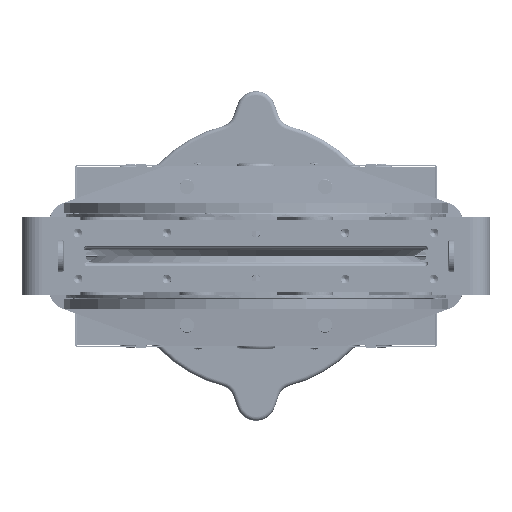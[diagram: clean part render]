
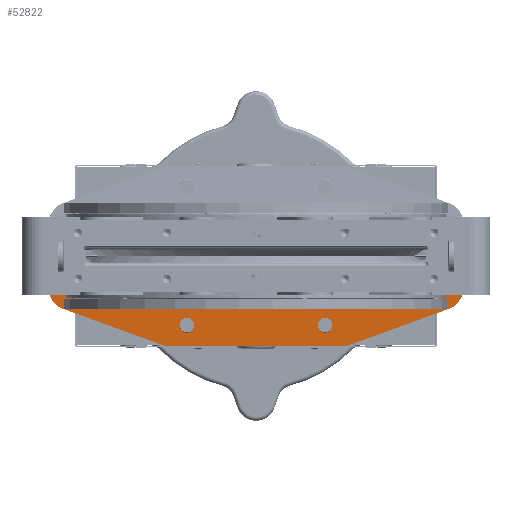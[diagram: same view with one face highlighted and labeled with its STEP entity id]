
A CAD part, front view. The second image highlights one B-rep face of the part: STEP entity #52822.
In plain terms, the highlighted planar face has unit normal (0, -0.998, -0.07).
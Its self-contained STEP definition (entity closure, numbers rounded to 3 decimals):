
#613=B_SPLINE_CURVE_WITH_KNOTS('',3,(#89070,#89071,#89072,#89073),
 .UNSPECIFIED.,.F.,.F.,(4,4),(0.,0.),.UNSPECIFIED.);
#614=B_SPLINE_CURVE_WITH_KNOTS('',3,(#89081,#89082,#89083,#89084),
 .UNSPECIFIED.,.F.,.F.,(4,4),(0.,0.),.UNSPECIFIED.);
#1090=ELLIPSE('',#57533,7.052,7.017);
#1091=ELLIPSE('',#57547,7.017,7.);
#1092=ELLIPSE('',#57549,7.052,7.017);
#1093=ELLIPSE('',#57563,7.017,7.);
#1094=ELLIPSE('',#57625,20.049,20.);
#1095=ELLIPSE('',#57629,20.049,20.);
#1096=ELLIPSE('',#57630,39.095,39.);
#1097=ELLIPSE('',#57631,39.095,39.);
#2473=FACE_BOUND('',#8564,.T.);
#2474=FACE_BOUND('',#8565,.T.);
#3352=PLANE('',#57628);
#5284=FACE_OUTER_BOUND('',#8563,.T.);
#8563=EDGE_LOOP('',(#39991,#39992,#39993,#39994,#39995,#39996,#39997,#39998,
#39999,#40000,#40001,#40002,#40003,#40004));
#8564=EDGE_LOOP('',(#40005,#40006));
#8565=EDGE_LOOP('',(#40007,#40008));
#11471=LINE('',#87438,#14343);
#11948=LINE('',#89043,#14820);
#11957=LINE('',#89060,#14829);
#11958=LINE('',#89062,#14830);
#11959=LINE('',#89066,#14831);
#11960=LINE('',#89068,#14832);
#11961=LINE('',#89077,#14833);
#11962=LINE('',#89085,#14834);
#14343=VECTOR('',#67203,1.);
#14820=VECTOR('',#69042,1.);
#14829=VECTOR('',#69053,1.);
#14830=VECTOR('',#69054,1.);
#14831=VECTOR('',#69057,1.);
#14832=VECTOR('',#69058,1.);
#14833=VECTOR('',#69061,1.);
#14834=VECTOR('',#69064,1.);
#21858=VERTEX_POINT('',#87435);
#21859=VERTEX_POINT('',#87437);
#22241=VERTEX_POINT('',#88828);
#22242=VERTEX_POINT('',#88829);
#22247=VERTEX_POINT('',#88854);
#22248=VERTEX_POINT('',#88855);
#22302=VERTEX_POINT('',#89033);
#22303=VERTEX_POINT('',#89034);
#22306=VERTEX_POINT('',#89042);
#22314=VERTEX_POINT('',#89061);
#22315=VERTEX_POINT('',#89063);
#22316=VERTEX_POINT('',#89065);
#22317=VERTEX_POINT('',#89067);
#22318=VERTEX_POINT('',#89069);
#22319=VERTEX_POINT('',#89074);
#22320=VERTEX_POINT('',#89076);
#22321=VERTEX_POINT('',#89078);
#22322=VERTEX_POINT('',#89080);
#27763=EDGE_CURVE('',#21858,#21859,#11471,.T.);
#28467=EDGE_CURVE('',#22241,#22242,#1090,.T.);
#28478=EDGE_CURVE('',#22242,#22241,#1091,.F.);
#28479=EDGE_CURVE('',#22247,#22248,#1092,.T.);
#28490=EDGE_CURVE('',#22248,#22247,#1093,.F.);
#28565=EDGE_CURVE('',#22302,#22303,#1094,.T.);
#28569=EDGE_CURVE('',#22303,#22306,#11948,.T.);
#28578=EDGE_CURVE('',#22302,#21859,#11957,.F.);
#28579=EDGE_CURVE('',#21858,#22314,#11958,.F.);
#28580=EDGE_CURVE('',#22315,#22314,#1095,.T.);
#28581=EDGE_CURVE('',#22315,#22316,#11959,.T.);
#28582=EDGE_CURVE('',#22316,#22317,#11960,.T.);
#28583=EDGE_CURVE('',#22317,#22318,#613,.T.);
#28584=EDGE_CURVE('',#22318,#22319,#1096,.F.);
#28585=EDGE_CURVE('',#22319,#22320,#11961,.T.);
#28586=EDGE_CURVE('',#22320,#22321,#1097,.F.);
#28587=EDGE_CURVE('',#22321,#22322,#614,.T.);
#28588=EDGE_CURVE('',#22322,#22306,#11962,.T.);
#39991=ORIENTED_EDGE('',*,*,#28565,.F.);
#39992=ORIENTED_EDGE('',*,*,#28578,.T.);
#39993=ORIENTED_EDGE('',*,*,#27763,.F.);
#39994=ORIENTED_EDGE('',*,*,#28579,.T.);
#39995=ORIENTED_EDGE('',*,*,#28580,.F.);
#39996=ORIENTED_EDGE('',*,*,#28581,.T.);
#39997=ORIENTED_EDGE('',*,*,#28582,.T.);
#39998=ORIENTED_EDGE('',*,*,#28583,.T.);
#39999=ORIENTED_EDGE('',*,*,#28584,.T.);
#40000=ORIENTED_EDGE('',*,*,#28585,.T.);
#40001=ORIENTED_EDGE('',*,*,#28586,.T.);
#40002=ORIENTED_EDGE('',*,*,#28587,.T.);
#40003=ORIENTED_EDGE('',*,*,#28588,.T.);
#40004=ORIENTED_EDGE('',*,*,#28569,.F.);
#40005=ORIENTED_EDGE('',*,*,#28467,.T.);
#40006=ORIENTED_EDGE('',*,*,#28478,.T.);
#40007=ORIENTED_EDGE('',*,*,#28479,.T.);
#40008=ORIENTED_EDGE('',*,*,#28490,.T.);
#52822=ADVANCED_FACE('',(#5284,#2473,#2474),#3352,.T.);
#57533=AXIS2_PLACEMENT_3D('',#88830,#68798,#68799);
#57547=AXIS2_PLACEMENT_3D('',#88852,#68830,#68831);
#57549=AXIS2_PLACEMENT_3D('',#88856,#68834,#68835);
#57563=AXIS2_PLACEMENT_3D('',#88878,#68866,#68867);
#57625=AXIS2_PLACEMENT_3D('',#89035,#69034,#69035);
#57628=AXIS2_PLACEMENT_3D('',#89059,#69051,#69052);
#57629=AXIS2_PLACEMENT_3D('',#89064,#69055,#69056);
#57630=AXIS2_PLACEMENT_3D('',#89075,#69059,#69060);
#57631=AXIS2_PLACEMENT_3D('',#89079,#69062,#69063);
#67203=DIRECTION('',(-1.,0.,0.));
#68798=DIRECTION('center_axis',(0.,0.998,0.07));
#68799=DIRECTION('ref_axis',(0.,0.07,-0.998));
#68830=DIRECTION('center_axis',(0.,-0.998,-0.07));
#68831=DIRECTION('ref_axis',(0.,0.07,-0.998));
#68834=DIRECTION('center_axis',(0.,0.998,0.07));
#68835=DIRECTION('ref_axis',(0.,0.07,-0.998));
#68866=DIRECTION('center_axis',(0.,-0.998,-0.07));
#68867=DIRECTION('ref_axis',(0.,0.07,-0.998));
#69034=DIRECTION('center_axis',(0.,0.998,0.07));
#69035=DIRECTION('ref_axis',(0.,0.07,-0.998));
#69042=DIRECTION('',(0.,-0.07,0.998));
#69051=DIRECTION('center_axis',(0.,-0.998,-0.07));
#69052=DIRECTION('ref_axis',(0.,0.07,-0.998));
#69053=DIRECTION('',(-0.939,-0.024,0.342));
#69054=DIRECTION('',(-0.939,0.024,-0.342));
#69055=DIRECTION('center_axis',(0.,0.998,0.07));
#69056=DIRECTION('ref_axis',(0.,0.07,-0.998));
#69057=DIRECTION('',(0.,-0.07,0.998));
#69058=DIRECTION('',(-1.,0.,0.));
#69059=DIRECTION('center_axis',(0.,-0.998,-0.07));
#69060=DIRECTION('ref_axis',(0.,-0.07,0.998));
#69061=DIRECTION('',(-1.,0.,0.));
#69062=DIRECTION('center_axis',(0.,-0.998,-0.07));
#69063=DIRECTION('ref_axis',(0.,-0.07,0.998));
#69064=DIRECTION('',(-1.,0.,0.));
#87435=CARTESIAN_POINT('',(90.,258.5,-87.5));
#87437=CARTESIAN_POINT('',(-90.,258.5,-87.5));
#87438=CARTESIAN_POINT('',(404798.025,258.5,-87.5));
#88828=CARTESIAN_POINT('',(-60.5,257.101,-67.5));
#88829=CARTESIAN_POINT('',(-74.5,257.101,-67.5));
#88830=CARTESIAN_POINT('Origin',(-67.5,257.136,-67.992));
#88852=CARTESIAN_POINT('Origin',(-67.5,257.101,-67.5));
#88854=CARTESIAN_POINT('',(74.5,257.101,-67.5));
#88855=CARTESIAN_POINT('',(60.5,257.101,-67.5));
#88856=CARTESIAN_POINT('Origin',(67.5,257.136,-67.992));
#88878=CARTESIAN_POINT('Origin',(67.5,257.101,-67.5));
#89033=CARTESIAN_POINT('',(-188.841,255.984,-51.525));
#89034=CARTESIAN_POINT('',(-202.,254.67,-32.731));
#89035=CARTESIAN_POINT('Origin',(-182.,254.67,-32.731));
#89042=CARTESIAN_POINT('',(-202.,253.5,-15.997));
#89043=CARTESIAN_POINT('',(-202.,258.5,-87.5));
#89059=CARTESIAN_POINT('Origin',(404798.025,258.5,-87.5));
#89060=CARTESIAN_POINT('',(357230.738,9352.769,-130141.613));
#89061=CARTESIAN_POINT('',(188.84,255.984,-51.525));
#89062=CARTESIAN_POINT('',(357251.885,-8831.726,129908.795));
#89063=CARTESIAN_POINT('',(202.,254.67,-32.731));
#89064=CARTESIAN_POINT('Origin',(182.,254.67,-32.731));
#89065=CARTESIAN_POINT('',(202.,253.5,-15.997));
#89066=CARTESIAN_POINT('',(202.,246.298,86.996));
#89067=CARTESIAN_POINT('',(200.77,253.5,-15.997));
#89068=CARTESIAN_POINT('',(-202.,253.5,-15.997));
#89069=CARTESIAN_POINT('',(200.482,253.497,-15.947));
#89070=CARTESIAN_POINT('Ctrl Pts',(200.77,253.5,-15.997));
#89071=CARTESIAN_POINT('Ctrl Pts',(200.671,253.5,-15.997));
#89072=CARTESIAN_POINT('Ctrl Pts',(200.575,253.499,-15.981));
#89073=CARTESIAN_POINT('Ctrl Pts',(200.482,253.497,-15.947));
#89074=CARTESIAN_POINT('',(164.,255.26,-41.163));
#89075=CARTESIAN_POINT('Origin',(164.,252.533,-2.163));
#89076=CARTESIAN_POINT('',(-164.,255.26,-41.163));
#89077=CARTESIAN_POINT('',(404798.025,255.26,-41.163));
#89078=CARTESIAN_POINT('',(-200.483,253.497,-15.947));
#89079=CARTESIAN_POINT('Origin',(-164.,252.533,-2.163));
#89080=CARTESIAN_POINT('',(-200.771,253.5,-15.997));
#89081=CARTESIAN_POINT('Ctrl Pts',(-200.483,253.497,-15.947));
#89082=CARTESIAN_POINT('Ctrl Pts',(-200.576,253.499,-15.981));
#89083=CARTESIAN_POINT('Ctrl Pts',(-200.672,253.5,-15.997));
#89084=CARTESIAN_POINT('Ctrl Pts',(-200.771,253.5,-15.997));
#89085=CARTESIAN_POINT('',(-202.,253.5,-15.997));
